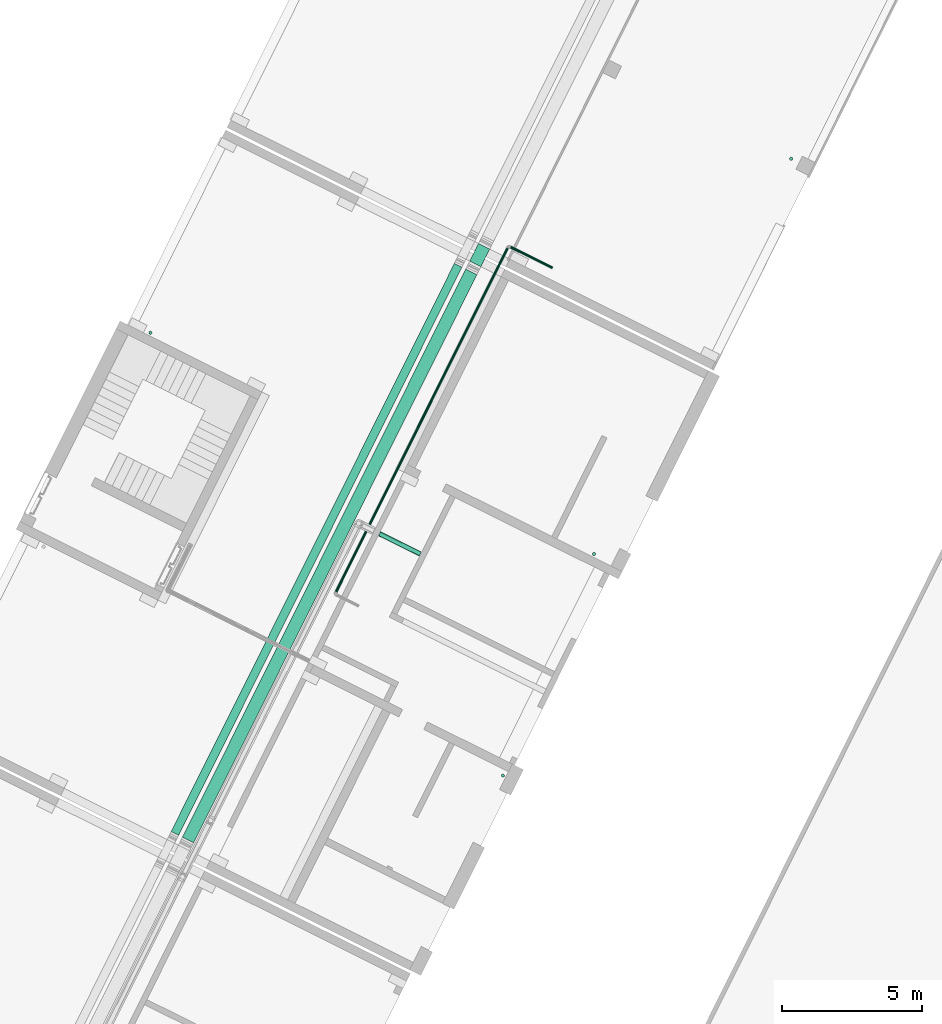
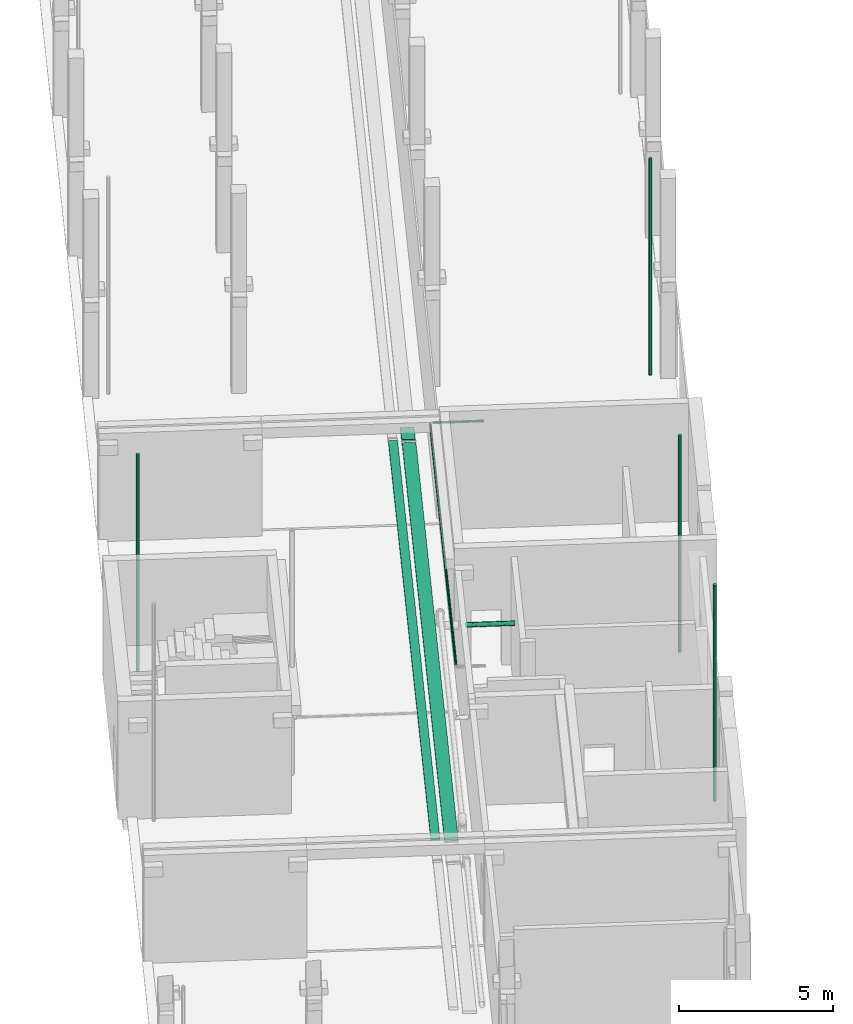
# One storey, part 64 of 91: 10 flow segments.
"""IFC2X3 building model written with IfcOpenShell, lengths in metres."""

import ifcopenshell
import ifcopenshell.guid

model = None  # the IFC model being written
_history = None  # IfcOwnerHistory: only IFC2X3 demands one
_inside = {}  # id of a spatial element -> (the spatial element, [elements in it])
_under = {}  # id of a project, library or spatial element -> (it, [spatial elements below it])
_declared = {}  # id of a project -> (the project, [libraries it declares])
_typed = {}  # id of a type object -> (the type object, [elements of that type])
_made_of = {}  # id of a material, layer set ... -> (it, [elements and type objects made of it])


def new_model(schema):
    """Start an empty IFC model of exactly this schema.

    Asked for "IFC4X3", IfcOpenShell would pick the latest addendum, in which some entities
    have other attributes; the version numbers below select the first issue.
    IFC2X3 requires an IfcOwnerHistory on every rooted entity: one is made here for all.
    """
    global model, _history
    if schema == "IFC4X3":
        model = ifcopenshell.file(schema_version=(4, 3, 0, 0))
    else:
        model = ifcopenshell.file(schema=schema)
    _inside.clear()
    _under.clear()
    _declared.clear()
    _typed.clear()
    _made_of.clear()
    _history = None
    if model.schema == "IFC2X3":
        org = make("IfcOrganization", Name="unknown")
        user = make(
            "IfcPersonAndOrganization",
            ThePerson=make("IfcPerson", FamilyName="unknown"),
            TheOrganization=org,
        )
        app = make(
            "IfcApplication",
            ApplicationDeveloper=org,
            Version="unknown",
            ApplicationFullName="unknown",
            ApplicationIdentifier="unknown",
        )
        _history = make(
            "IfcOwnerHistory",
            OwningUser=user,
            OwningApplication=app,
            ChangeAction="ADDED",
            CreationDate=0,
        )
    return model


def make(cls, **values):
    """One entity of the class cls with the attributes given. An attribute that is None is left unset."""
    return model.create_entity(
        cls, **{name: value for name, value in values.items() if value is not None}
    )


def entity(cls, *values):
    """Any entity or typed value of the class cls, its attributes in the order of the schema. None: left unset."""
    e = model.create_entity(cls)
    for i, value in enumerate(values):
        if value is not None:
            e[i] = value
    return e


def rooted(cls, **values):
    """An entity with a GlobalId (a new one), such as an element, a storey or a relation."""
    return make(cls, GlobalId=ifcopenshell.guid.new(), OwnerHistory=_history, **values)


def si_unit(unit_type, name, prefix=None):
    """IfcSIUnit, for example si_unit("LENGTHUNIT", "METRE", prefix="MILLI")."""
    return make("IfcSIUnit", UnitType=unit_type, Prefix=prefix, Name=name)


def converted_unit(unit_type, name, factor, base, dimensions=None, offset=None):
    """IfcConversionBasedUnit, such as the inch: factor (a typed value) times the base unit."""
    return make(
        "IfcConversionBasedUnit"
        if offset is None
        else "IfcConversionBasedUnitWithOffset",
        ConversionOffset=offset,
        Dimensions=None
        if dimensions is None
        else entity("IfcDimensionalExponents", *dimensions),
        UnitType=unit_type,
        Name=name,
        ConversionFactor=make(
            "IfcMeasureWithUnit", ValueComponent=factor, UnitComponent=base
        ),
    )


def derived_unit(unit_type, elements):
    """IfcDerivedUnit: a product of units, each with its exponent."""
    return make(
        "IfcDerivedUnit",
        Elements=[
            make("IfcDerivedUnitElement", Unit=unit, Exponent=power)
            for unit, power in elements
        ],
        UnitType=unit_type,
    )


def assignment(units):
    """IfcUnitAssignment: the units of a project."""
    return None if units is None else make("IfcUnitAssignment", Units=units)


def point(xyz):
    """IfcCartesianPoint."""
    return None if xyz is None else make("IfcCartesianPoint", Coordinates=xyz)


def direction(xyz):
    """IfcDirection."""
    return None if xyz is None else make("IfcDirection", DirectionRatios=xyz)


def frame(location, z_axis=None, x_axis=None):
    """IfcAxis2Placement3D, a coordinate frame: its origin and axes. An axis left out is left unset."""
    return make(
        "IfcAxis2Placement3D",
        Location=point(location),
        Axis=direction(z_axis),
        RefDirection=direction(x_axis),
    )


def frame_2d(location, x_axis=None):
    """IfcAxis2Placement2D, a coordinate frame in the plane: its origin and x axis."""
    return make(
        "IfcAxis2Placement2D", Location=point(location), RefDirection=direction(x_axis)
    )


def origin():
    """The frame at (0, 0, 0) with its axes left unset."""
    return frame((0.0, 0.0, 0.0))


def origin_2d_with_axis():
    """The frame at (0, 0) in the plane with the x axis (1, 0) written out."""
    return frame_2d((0.0, 0.0), x_axis=(1.0, 0.0))


def place(relative_to, where):
    """IfcLocalPlacement: puts the frame where relative to a parent placement (None: the world)."""
    return make(
        "IfcLocalPlacement", PlacementRelTo=relative_to, RelativePlacement=where
    )


def context(
    kind, dimensions, precision=None, world=None, true_north=None, identifier=None
):
    """IfcGeometricRepresentationContext, for example the 3D "Model" context."""
    return make(
        "IfcGeometricRepresentationContext",
        ContextIdentifier=identifier,
        ContextType=kind,
        CoordinateSpaceDimension=dimensions,
        Precision=precision,
        WorldCoordinateSystem=world,
        TrueNorth=true_north,
    )


def subcontext(parent, identifier, kind, view, scale=None):
    """IfcGeometricRepresentationSubContext, for example "Body" below "Model"."""
    return make(
        "IfcGeometricRepresentationSubContext",
        ContextIdentifier=identifier,
        ContextType=kind,
        ParentContext=parent,
        TargetScale=scale,
        TargetView=view,
    )


def project(units=None, contexts=None):
    """IfcProject with its units and contexts."""
    return rooted(
        "IfcProject",
        Name="project",
        RepresentationContexts=contexts,
        UnitsInContext=assignment(units),
    )


def spatial(cls, under=None, at=None, **own):
    """A site, building, storey or space (cls), placed at a placement, below another one or the project."""
    s = rooted(cls, ObjectPlacement=at, **own)
    if under is not None:
        _under.setdefault(under.id(), (under, []))[1].append(s)
    return s


def profile(cls, at=None, kind="AREA", **sizes):
    """A parametric profile (cls). Its sizes go by their IFC names, for example OverallWidth=200.0."""
    return make(cls, ProfileType=kind, Position=at, **sizes)


def rectangle(**sizes):
    """IfcRectangleProfileDef."""
    return profile("IfcRectangleProfileDef", **sizes)


def circle(**sizes):
    """IfcCircleProfileDef."""
    return profile("IfcCircleProfileDef", **sizes)


def extrude(swept, where, along, depth):
    """IfcExtrudedAreaSolid: the profile swept, set in the frame where, extruded along a direction by depth."""
    return make(
        "IfcExtrudedAreaSolid",
        SweptArea=swept,
        Position=where,
        ExtrudedDirection=direction(along),
        Depth=depth,
    )


def shape(context_of_items, identifier, shape_type, items):
    """IfcShapeRepresentation: the items that make up one representation, for example the "Body"."""
    return make(
        "IfcShapeRepresentation",
        ContextOfItems=context_of_items,
        RepresentationIdentifier=identifier,
        RepresentationType=shape_type,
        Items=items,
    )


def made_of(thing, what):
    """Note that an element or type object is made of a material, layer set ...; save() writes the relation."""
    if what is not None:
        _made_of.setdefault(what.id(), (what, []))[1].append(thing)
    return thing


def type_object(cls, material=None, **own):
    """A type object (cls), such as IfcWallType, which elements share."""
    return made_of(rooted(cls, **own), material)


def element(
    cls,
    number,
    at=None,
    inside=None,
    cuts=None,
    type_object=None,
    material=None,
    context=None,
    identifier="Body",
    shape_type=None,
    held_by="IfcProductDefinitionShape",
    body=None,
    shapes=None,
    **own,
):
    """One element of the class cls, such as IfcWall. Its Tag is "e" and its number.

    at: its placement. inside: the storey or other place that contains it. cuts: it is an
    opening in that element (IfcRelVoidsElement). A single representation is given by context,
    identifier, shape_type and body (its items); several are given by shapes. held_by: the class
    of the entity that holds the representations. save() writes the other relations.
    """
    e = rooted(cls, Tag="e%d" % number, ObjectPlacement=at, **own)
    if body is not None:
        shapes = [shape(context, identifier, shape_type, body)]
    if shapes is not None:
        e.Representation = make(held_by, Representations=shapes)
    if inside is not None:
        _inside.setdefault(inside.id(), (inside, []))[1].append(e)
    if cuts is not None:
        rooted(
            "IfcRelVoidsElement", RelatingBuildingElement=cuts, RelatedOpeningElement=e
        )
    if type_object is not None:
        _typed.setdefault(type_object.id(), (type_object, []))[1].append(e)
    return made_of(e, material)


def aggregate(whole, parts):
    """IfcRelAggregates: a whole, such as a stair, and the parts it consists of."""
    return rooted("IfcRelAggregates", RelatingObject=whole, RelatedObjects=parts)


def save(model, path):
    """Write the relations noted so far, then the file.

    IfcRelAggregates (storeys below a building ...), IfcRelContainedInSpatialStructure (elements
    in a storey), IfcRelDefinesByType, IfcRelAssociatesMaterial and IfcRelDeclares: one each for
    every whole, place, type object, material and project.
    """
    for whole, parts in _under.values():
        aggregate(whole, parts)
    for where, things in _inside.values():
        rooted(
            "IfcRelContainedInSpatialStructure",
            RelatedElements=things,
            RelatingStructure=where,
        )
    for kind, things in _typed.values():
        rooted("IfcRelDefinesByType", RelatedObjects=things, RelatingType=kind)
    for what, things in _made_of.values():
        rooted("IfcRelAssociatesMaterial", RelatedObjects=things, RelatingMaterial=what)
    for by, libraries in _declared.values():
        rooted("IfcRelDeclares", RelatingContext=by, RelatedDefinitions=libraries)
    model.write(path)


model = new_model("IFC2X3")

# Units and contexts
model_context = context("Model", 3, precision=1e-05, world=origin(), true_north=direction((0.894925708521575, 0.446215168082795)))
context_of_model = context(None, 3, precision=1e-05, world=origin(), true_north=direction((0.894925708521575, 0.446215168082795)))
body_context = subcontext(model_context, "Body", "Model", "MODEL_VIEW")
ifc_project = project(units=[si_unit("LENGTHUNIT", "METRE"), si_unit("AREAUNIT", "SQUARE_METRE"), si_unit("VOLUMEUNIT", "CUBIC_METRE"), converted_unit("PLANEANGLEUNIT", "DEGREE", entity("IfcRatioMeasure", 0.0174532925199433), si_unit("PLANEANGLEUNIT", "RADIAN"), dimensions=[0, 0, 0, 0, 0, 0, 0]), si_unit("MASSUNIT", "GRAM", prefix="KILO"), si_unit("TIMEUNIT", "SECOND"), si_unit("FREQUENCYUNIT", "HERTZ"), si_unit("THERMODYNAMICTEMPERATUREUNIT", "DEGREE_CELSIUS"), derived_unit("THERMALTRANSMITTANCEUNIT", [(si_unit("MASSUNIT", "GRAM", prefix="KILO"), 1), (si_unit("THERMODYNAMICTEMPERATUREUNIT", "KELVIN"), -1), (si_unit("TIMEUNIT", "SECOND"), -3)]), derived_unit("VOLUMETRICFLOWRATEUNIT", [(si_unit("LENGTHUNIT", "METRE"), 3), (si_unit("TIMEUNIT", "SECOND"), -1)]), si_unit("ELECTRICCURRENTUNIT", "AMPERE"), si_unit("ELECTRICVOLTAGEUNIT", "VOLT"), si_unit("POWERUNIT", "WATT"), si_unit("FORCEUNIT", "NEWTON", prefix="KILO"), si_unit("ILLUMINANCEUNIT", "LUX"), si_unit("LUMINOUSFLUXUNIT", "LUMEN"), si_unit("LUMINOUSINTENSITYUNIT", "CANDELA"), si_unit("PRESSUREUNIT", "PASCAL")], contexts=[model_context, context_of_model])

# Site, building, storey
site_placement = place(None, frame((218.228324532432, 584.720189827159, 0.0), z_axis=(0.0, 0.0, 1.0), x_axis=(0.446215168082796, 0.894925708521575, 0.0)))
site = spatial("IfcSite", under=ifc_project, at=site_placement, Name="Default", CompositionType="ELEMENT")
building_placement = place(site_placement, origin())
building = spatial("IfcBuilding", under=site, at=building_placement, CompositionType="ELEMENT")
storey_placement = place(building_placement, origin())
storey = spatial("IfcBuildingStorey", under=building, at=storey_placement, Name="0 - Piano Terra", CompositionType="ELEMENT", Elevation=0.0)

# Flow segments
pipe_segment_type_1 = type_object("IfcPipeSegmentType", Name="Tubazione:Pluviale-Tubazione", PredefinedType="NOTDEFINED")
flow_segment_1_placement = place(storey_placement, frame((3.36796970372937, 5.24017573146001, 0.0)))
element("IfcFlowSegment", 1, at=flow_segment_1_placement, inside=storey, type_object=pipe_segment_type_1, Name="Tubazione:Pluviale-Tubazione", ObjectType="Tubazione:Pluviale-Tubazione", context=body_context, shape_type="SweptSolid", body=[
    extrude(circle(Radius=0.05715, at=origin_2d_with_axis()), frame((0.0587452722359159, 0.0587452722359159, 0.0)), (0.0, 0.0, 1.0), 8.61),
])
for number, where, name in (
    (2, (-5.1570302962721, -13.0573242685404, 0.0), "Tubazione:Pluviale-Tubazione"),
    (3, (3.36796970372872, -12.4398242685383, 0.0), "Tubazione:Pluviale-Tubazione"),
    (4, (19.1170842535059, -12.4398242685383, 0.0), "Tubazione:Pluviale-Tubazione"),
):
    element("IfcFlowSegment", number, at=place(storey_placement, frame(where)), inside=storey, type_object=pipe_segment_type_1, Name=name, ObjectType="Tubazione:Pluviale-Tubazione", context=body_context, shape_type="SweptSolid", body=[
        extrude(circle(Radius=0.05715, at=origin_2d_with_axis()), frame((0.0587452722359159, 0.0587452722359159, 0.0)), (0.0, 0.0, 1.0), 8.6),
    ])
pipe_segment_type_2 = type_object("IfcPipeSegmentType", Name="Tubazione:Riscaldamento-Tubazione", PredefinedType="NOTDEFINED")
flow_segment_2_placement = place(storey_placement, frame((0.571569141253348, -6.83336339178, 3.21426722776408)))
element("IfcFlowSegment", 5, at=flow_segment_2_placement, inside=storey, type_object=pipe_segment_type_2, Name="Tubazione:Riscaldamento-Tubazione", ObjectType="Tubazione:Riscaldamento-Tubazione", context=body_context, shape_type="SweptSolid", body=[
    extrude(circle(Radius=0.0841375, at=frame_2d((2.70716782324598e-16, 0.0), x_axis=(1.0, 0.0))), frame((0.0857327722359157, 0.0, 0.0857327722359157), z_axis=(0.0, 1.0, 0.0), x_axis=(1.0, 0.0, 0.0)), (0.0, 0.0, 1.0), 1.62),
])
cable_carrier_segment_type = type_object("IfcCableCarrierSegmentType", Name="Passerella con raccordi:Passerella canale", PredefinedType="NOTDEFINED")
flow_segment_3_placement = place(storey_placement, frame((-12.1648212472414, -3.60107899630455, 3.76249999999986)))
element("IfcFlowSegment", 6, at=flow_segment_3_placement, inside=storey, type_object=cable_carrier_segment_type, Name="Passerella con raccordi:Passerella canale", ObjectType="Passerella con raccordi:Passerella canale", context=body_context, shape_type="SweptSolid", body=[
    extrude(rectangle(XDim=22.6394507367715, YDim=0.3, at=origin_2d_with_axis()), frame((11.3197253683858, 0.150000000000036, 0.0)), (0.0, 0.0, 1.0), 0.0750000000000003),
])
flow_segment_4_placement = place(storey_placement, frame((-12.1648212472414, -4.20107899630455, 3.66249999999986)))
element("IfcFlowSegment", 7, at=flow_segment_4_placement, inside=storey, type_object=cable_carrier_segment_type, Name="Passerella con raccordi:Passerella canale", ObjectType="Passerella con raccordi:Passerella canale", context=body_context, shape_type="SweptSolid", body=[
    extrude(rectangle(XDim=22.6394507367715, YDim=0.450000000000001, at=origin_2d_with_axis()), frame((11.3197253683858, 0.225000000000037, 0.0)), (0.0, 0.0, 1.0), 0.0750000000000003),
])
flow_segment_5_placement = place(storey_placement, frame((10.7941974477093, -4.20107899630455, 3.56275102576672)))
element("IfcFlowSegment", 8, at=flow_segment_5_placement, inside=storey, type_object=cable_carrier_segment_type, Name="Passerella con raccordi:Passerella canale", ObjectType="Passerella con raccordi:Passerella canale", context=body_context, shape_type="SweptSolid", body=[
    extrude(rectangle(XDim=0.699999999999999, YDim=0.45, at=frame_2d((-1.08246744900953e-15, 0.0), x_axis=(1.0, 0.0))), frame((0.350000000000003, 0.225000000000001, 0.0)), (0.0, 0.0, 1.0), 0.0750000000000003),
])
pipe_segment_type_3 = type_object("IfcPipeSegmentType", Name="Tubazione:Antincendio-Tubazione", PredefinedType="NOTDEFINED")
flow_segment_6_placement = place(storey_placement, frame((-1.90083558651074, -4.79712426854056, 3.45395472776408)))
element("IfcFlowSegment", 9, at=flow_segment_6_placement, inside=storey, type_object=pipe_segment_type_3, Name="Tubazione:Antincendio-Tubazione", ObjectType="Tubazione:Antincendio-Tubazione", context=body_context, shape_type="SweptSolid", body=[
    extrude(circle(Radius=0.04445, at=frame_2d((-7.52592654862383e-14, 0.0), x_axis=(1.0, 0.0))), frame((0.0, 0.0460452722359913, 0.0460452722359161), z_axis=(1.0, 0.0, 0.0), x_axis=(0.0, 1.0, 0.0)), (0.0, 0.0, 1.0), 13.719050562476),
])
flow_segment_7_placement = place(storey_placement, frame((11.8481697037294, -6.50107899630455, 3.45395472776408)))
element("IfcFlowSegment", 10, at=flow_segment_7_placement, inside=storey, type_object=pipe_segment_type_3, Name="Tubazione:Antincendio-Tubazione", ObjectType="Tubazione:Antincendio-Tubazione", context=body_context, shape_type="SweptSolid", body=[
    extrude(circle(Radius=0.04445, at=origin_2d_with_axis()), frame((0.0460452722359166, 0.0, 0.0460452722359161), z_axis=(0.0, 1.0, 0.0), x_axis=(1.0, 0.0, 0.0)), (0.0, 0.0, 1.0), 1.6739999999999),
])

save(model, "model.ifc")
